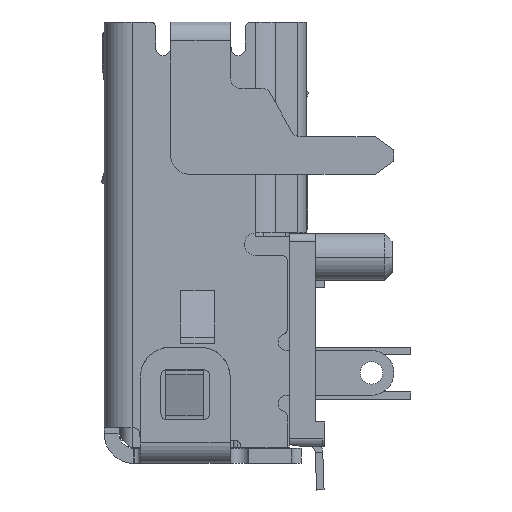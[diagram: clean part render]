
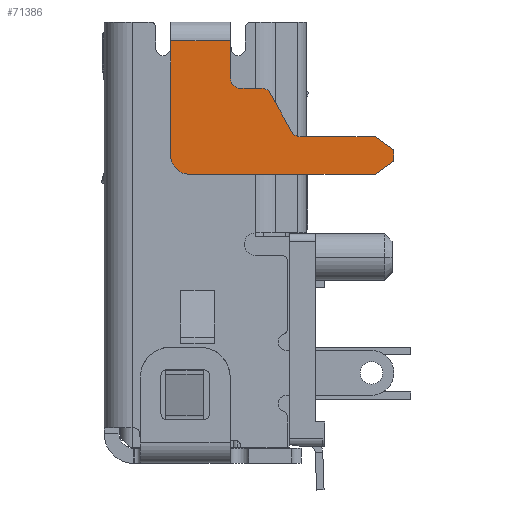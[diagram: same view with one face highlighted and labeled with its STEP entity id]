
A CAD part, left-side view. The second image highlights one B-rep face of the part: STEP entity #71386.
In plain terms, the highlighted planar face has unit normal (-1, 0, 0).
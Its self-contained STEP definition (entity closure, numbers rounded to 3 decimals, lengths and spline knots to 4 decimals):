
#24786=DIRECTION('',(0.,0.,-1.));
#24787=VECTOR('',#24786,3.0643);
#24788=CARTESIAN_POINT('',(0.,5.9708,
-0.505));
#24789=LINE('',#24788,#24787);
#24790=CARTESIAN_POINT('',(0.,5.4708,
-3.5693));
#24791=DIRECTION('',(1.,0.,0.));
#24792=DIRECTION('',(0.,0.,-1.));
#24793=AXIS2_PLACEMENT_3D('',#24790,#24791,#24792);
#24795=DIRECTION('',(0.,-1.,0.));
#24796=VECTOR('',#24795,1.6);
#24797=CARTESIAN_POINT('',(0.,5.9708,
-0.505));
#24798=LINE('',#24797,#24796);
#24799=DIRECTION('',(0.,0.,-1.));
#24800=VECTOR('',#24799,1.0143);
#24801=CARTESIAN_POINT('',(0.,4.3708,
-0.505));
#24802=LINE('',#24801,#24800);
#24803=CARTESIAN_POINT('',(0.,4.1208,
-1.5193));
#24804=DIRECTION('',(-1.,0.,0.));
#24805=DIRECTION('',(0.,1.,0.));
#24806=AXIS2_PLACEMENT_3D('',#24803,#24804,#24805);
#24808=CARTESIAN_POINT('',(0.,3.5359,
-2.0193));
#24809=DIRECTION('',(1.,0.,0.));
#24810=DIRECTION('',(0.,0.,1.));
#24811=AXIS2_PLACEMENT_3D('',#24808,#24809,#24810);
#24813=DIRECTION('',(0.,-0.494,-0.869));
#24814=VECTOR('',#24813,1.2047);
#24815=CARTESIAN_POINT('',(0.,3.3186,
-1.8957));
#24816=LINE('',#24815,#24814);
#24817=CARTESIAN_POINT('',(0.,2.5057,
-2.8193));
#24818=DIRECTION('',(-1.,0.,0.));
#24819=DIRECTION('',(0.,0.869,-0.494));
#24820=AXIS2_PLACEMENT_3D('',#24817,#24818,#24819);
#24822=DIRECTION('',(0.,-0.819,-0.573));
#24823=VECTOR('',#24822,0.6103);
#24824=CARTESIAN_POINT('',(0.,0.5012,
-3.0693));
#24825=LINE('',#24824,#24823);
#24826=DIRECTION('',(0.,0.819,-0.573));
#24827=VECTOR('',#24826,0.6103);
#24828=CARTESIAN_POINT('',(0.,0.0012,
-3.7193));
#24829=LINE('',#24828,#24827);
#24866=DIRECTION('',(0.,1.,0.));
#24867=VECTOR('',#24866,0.5849);
#24868=CARTESIAN_POINT('',(0.,3.5359,
-1.7693));
#24869=LINE('',#24868,#24867);
#24890=DIRECTION('',(0.,1.,0.));
#24891=VECTOR('',#24890,2.0046);
#24892=CARTESIAN_POINT('',(0.,0.5012,
-3.0693));
#24893=LINE('',#24892,#24891);
#24906=DIRECTION('',(0.,0.,1.));
#24907=VECTOR('',#24906,0.3);
#24908=CARTESIAN_POINT('',(0.,0.0012,
-3.7193));
#24909=LINE('',#24908,#24907);
#24926=DIRECTION('',(0.,-1.,0.));
#24927=VECTOR('',#24926,4.9697);
#24928=CARTESIAN_POINT('',(0.,5.4708,
-4.0693));
#24929=LINE('',#24928,#24927);
#30378=CARTESIAN_POINT('',(0.,5.9708,
-0.505));
#30379=VERTEX_POINT('',#30378);
#30386=CARTESIAN_POINT('',(0.,4.3708,
-0.505));
#30388=VERTEX_POINT('',#30386);
#30390=CARTESIAN_POINT('',(0.,5.4708,
-4.0693));
#30391=CARTESIAN_POINT('',(0.,5.9708,
-3.5693));
#30392=VERTEX_POINT('',#30390);
#30393=VERTEX_POINT('',#30391);
#30394=CARTESIAN_POINT('',(0.,4.3708,
-1.5193));
#30395=VERTEX_POINT('',#30394);
#30396=CARTESIAN_POINT('',(0.,4.1208,
-1.7693));
#30397=VERTEX_POINT('',#30396);
#30398=CARTESIAN_POINT('',(0.,3.5359,
-1.7693));
#30399=CARTESIAN_POINT('',(0.,3.3186,
-1.8957));
#30400=VERTEX_POINT('',#30398);
#30401=VERTEX_POINT('',#30399);
#30402=CARTESIAN_POINT('',(0.,2.7231,
-2.9429));
#30403=VERTEX_POINT('',#30402);
#30404=CARTESIAN_POINT('',(0.,2.5057,
-3.0693));
#30405=VERTEX_POINT('',#30404);
#30406=CARTESIAN_POINT('',(0.,0.5012,
-3.0693));
#30407=CARTESIAN_POINT('',(0.,0.0012,
-3.4193));
#30408=VERTEX_POINT('',#30406);
#30409=VERTEX_POINT('',#30407);
#30410=CARTESIAN_POINT('',(0.,0.0012,
-3.7193));
#30411=CARTESIAN_POINT('',(0.,0.5012,
-4.0693));
#30412=VERTEX_POINT('',#30410);
#30413=VERTEX_POINT('',#30411);
#71354=CARTESIAN_POINT('',(0.,2.986,
-2.2871));
#71355=DIRECTION('',(1.,0.,0.));
#71356=DIRECTION('',(0.,0.,-1.));
#71357=AXIS2_PLACEMENT_3D('',#71354,#71355,#71356);
#71358=PLANE('',#71357);
#71359=ORIENTED_EDGE('',*,*,#71334,.T.);
#71360=ORIENTED_EDGE('',*,*,#71349,.F.);
#71361=ORIENTED_EDGE('',*,*,#71238,.T.);
#71363=ORIENTED_EDGE('',*,*,#71362,.T.);
#71365=ORIENTED_EDGE('',*,*,#71364,.T.);
#71367=ORIENTED_EDGE('',*,*,#71366,.F.);
#71369=ORIENTED_EDGE('',*,*,#71368,.T.);
#71371=ORIENTED_EDGE('',*,*,#71370,.T.);
#71373=ORIENTED_EDGE('',*,*,#71372,.T.);
#71375=ORIENTED_EDGE('',*,*,#71374,.F.);
#71377=ORIENTED_EDGE('',*,*,#71376,.T.);
#71379=ORIENTED_EDGE('',*,*,#71378,.F.);
#71381=ORIENTED_EDGE('',*,*,#71380,.T.);
#71383=ORIENTED_EDGE('',*,*,#71382,.F.);
#71384=EDGE_LOOP('',(#71359,#71360,#71361,#71363,#71365,#71367,#71369,#71371,
#71373,#71375,#71377,#71379,#71381,#71383));
#71385=FACE_OUTER_BOUND('',#71384,.F.);
#71386=ADVANCED_FACE('',(#71385),#71358,.F.);
#24794=CIRCLE('',#24793,0.5);
#24807=CIRCLE('',#24806,0.25);
#24812=CIRCLE('',#24811,0.25);
#24821=CIRCLE('',#24820,0.25);
#71238=EDGE_CURVE('',#30379,#30388,#24798,.T.);
#71334=EDGE_CURVE('',#30392,#30393,#24794,.T.);
#71349=EDGE_CURVE('',#30379,#30393,#24789,.T.);
#71362=EDGE_CURVE('',#30388,#30395,#24802,.T.);
#71364=EDGE_CURVE('',#30395,#30397,#24807,.T.);
#71366=EDGE_CURVE('',#30400,#30397,#24869,.T.);
#71368=EDGE_CURVE('',#30400,#30401,#24812,.T.);
#71370=EDGE_CURVE('',#30401,#30403,#24816,.T.);
#71372=EDGE_CURVE('',#30403,#30405,#24821,.T.);
#71374=EDGE_CURVE('',#30408,#30405,#24893,.T.);
#71376=EDGE_CURVE('',#30408,#30409,#24825,.T.);
#71378=EDGE_CURVE('',#30412,#30409,#24909,.T.);
#71380=EDGE_CURVE('',#30412,#30413,#24829,.T.);
#71382=EDGE_CURVE('',#30392,#30413,#24929,.T.);
